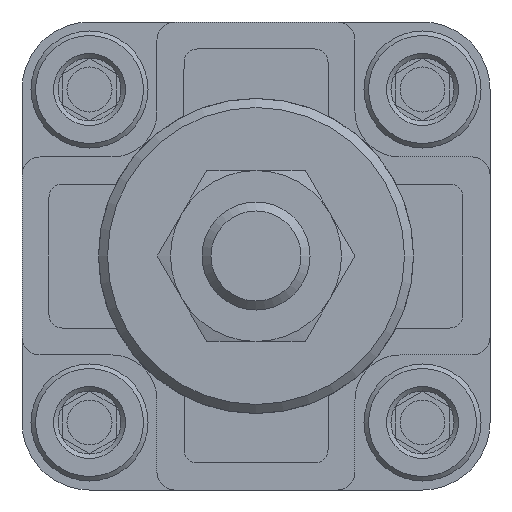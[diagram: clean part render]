
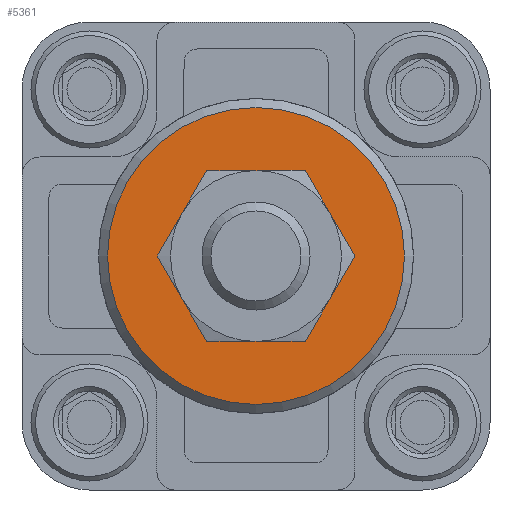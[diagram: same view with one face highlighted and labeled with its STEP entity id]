
A CAD part, front view. The second image highlights one B-rep face of the part: STEP entity #5361.
In plain terms, the highlighted planar face has unit normal (0, -1, 0).
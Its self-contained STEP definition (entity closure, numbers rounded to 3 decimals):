
#825=ORIENTED_EDGE('',*,*,#1897,.T.);
#826=ORIENTED_EDGE('',*,*,#1895,.T.);
#1895=EDGE_CURVE('',#2432,#2432,#2809,.T.);
#1897=EDGE_CURVE('',#2434,#2434,#2811,.F.);
#2432=VERTEX_POINT('',#7291);
#2434=VERTEX_POINT('',#7297);
#2809=CIRCLE('',#5629,9.);
#2811=CIRCLE('',#5633,16.5);
#3012=EDGE_LOOP('',(#825));
#3013=EDGE_LOOP('',(#826));
#3340=FACE_BOUND('',#3012,.T.);
#3341=FACE_BOUND('',#3013,.T.);
#3662=PLANE('',#5632);
#5361=ADVANCED_FACE('',(#3340,#3341),#3662,.F.);
#5629=AXIS2_PLACEMENT_3D('',#7290,#6086,#6087);
#5632=AXIS2_PLACEMENT_3D('',#7295,#6092,#6093);
#5633=AXIS2_PLACEMENT_3D('',#7296,#6094,#6095);
#6086=DIRECTION('',(0.,1.,0.));
#6087=DIRECTION('',(0.,0.,1.));
#6092=DIRECTION('',(0.,1.,0.));
#6093=DIRECTION('',(0.,0.,1.));
#6094=DIRECTION('',(0.,1.,0.));
#6095=DIRECTION('',(0.,0.,1.));
#7290=CARTESIAN_POINT('',(0.,-46.,0.));
#7291=CARTESIAN_POINT('',(0.,-46.,9.));
#7295=CARTESIAN_POINT('',(0.,-46.,0.));
#7296=CARTESIAN_POINT('',(0.,-46.,0.));
#7297=CARTESIAN_POINT('',(0.,-46.,16.5));
